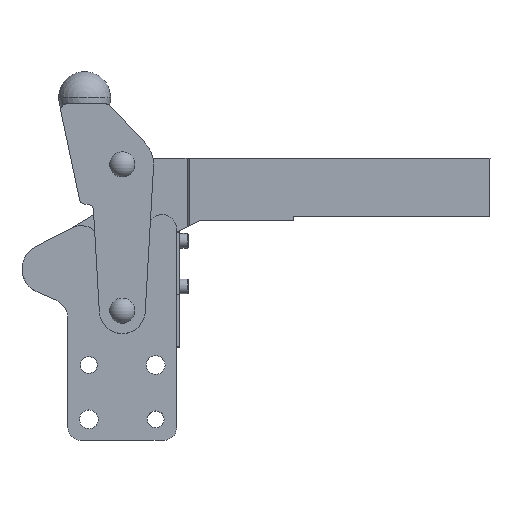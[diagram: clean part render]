
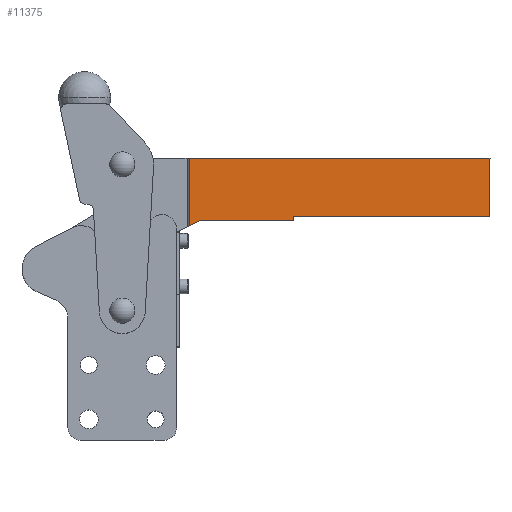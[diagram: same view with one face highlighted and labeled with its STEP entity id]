
A CAD part, top view. The second image highlights one B-rep face of the part: STEP entity #11375.
In plain terms, the highlighted planar face has unit normal (0, 0, 1).
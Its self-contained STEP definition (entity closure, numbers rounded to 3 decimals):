
#11029=CARTESIAN_POINT('',(536.792,181.28,-1.));
#11030=VERTEX_POINT('',#11029);
#11037=CARTESIAN_POINT('',(536.792,213.653,-1.));
#11038=VERTEX_POINT('',#11037);
#11039=CARTESIAN_POINT('',(536.792,213.653,-1.));
#11040=DIRECTION('',(0.,-1.,0.0));
#11041=VECTOR('',#11040,32.373);
#11042=LINE('',#11039,#11041);
#11043=EDGE_CURVE('',#11038,#11030,#11042,.T.);
#11241=CARTESIAN_POINT('',(680.792,213.653,-1.));
#11242=VERTEX_POINT('',#11241);
#11243=CARTESIAN_POINT('',(536.792,213.653,-1.));
#11244=DIRECTION('',(1.,0.,0.));
#11245=VECTOR('',#11244,144.);
#11246=LINE('',#11243,#11245);
#11247=EDGE_CURVE('',#11038,#11242,#11246,.T.);
#11328=CARTESIAN_POINT('',(468.04,159.94,-1.));
#11329=DIRECTION('',(0.0,0.0,1.0));
#11330=DIRECTION('',(1.,0.,0.0));
#11331=AXIS2_PLACEMENT_3D('',#11328,#11329,#11330);
#11332=PLANE('',#11331);
#11333=ORIENTED_EDGE('',*,*,#11043,.T.);
#11334=CARTESIAN_POINT('',(541.651,183.653,-1.));
#11335=VERTEX_POINT('',#11334);
#11336=CARTESIAN_POINT('',(541.651,183.653,-1.));
#11337=DIRECTION('',(-0.899,-0.439,0.0));
#11338=VECTOR('',#11337,5.408);
#11339=LINE('',#11336,#11338);
#11340=EDGE_CURVE('',#11335,#11030,#11339,.T.);
#11341=ORIENTED_EDGE('',*,*,#11340,.F.);
#11342=CARTESIAN_POINT('',(586.792,183.653,-1.));
#11343=VERTEX_POINT('',#11342);
#11344=CARTESIAN_POINT('',(586.792,183.653,-1.));
#11345=DIRECTION('',(-1.,0.,0.));
#11346=VECTOR('',#11345,45.141);
#11347=LINE('',#11344,#11346);
#11348=EDGE_CURVE('',#11343,#11335,#11347,.T.);
#11349=ORIENTED_EDGE('',*,*,#11348,.F.);
#11350=CARTESIAN_POINT('',(586.792,185.653,-1.));
#11351=VERTEX_POINT('',#11350);
#11352=CARTESIAN_POINT('',(586.792,185.653,-1.));
#11353=DIRECTION('',(0.,-1.,0.0));
#11354=VECTOR('',#11353,2.);
#11355=LINE('',#11352,#11354);
#11356=EDGE_CURVE('',#11351,#11343,#11355,.T.);
#11357=ORIENTED_EDGE('',*,*,#11356,.F.);
#11358=CARTESIAN_POINT('',(680.792,185.653,-1.));
#11359=VERTEX_POINT('',#11358);
#11360=CARTESIAN_POINT('',(680.792,185.653,-1.));
#11361=DIRECTION('',(-1.,0.,0.));
#11362=VECTOR('',#11361,94.);
#11363=LINE('',#11360,#11362);
#11364=EDGE_CURVE('',#11359,#11351,#11363,.T.);
#11365=ORIENTED_EDGE('',*,*,#11364,.F.);
#11366=CARTESIAN_POINT('',(680.792,213.653,-1.));
#11367=DIRECTION('',(0.,-1.,0.0));
#11368=VECTOR('',#11367,28.);
#11369=LINE('',#11366,#11368);
#11370=EDGE_CURVE('',#11242,#11359,#11369,.T.);
#11371=ORIENTED_EDGE('',*,*,#11370,.F.);
#11372=ORIENTED_EDGE('',*,*,#11247,.F.);
#11373=EDGE_LOOP('',(#11333,#11341,#11349,#11357,#11365,#11371,#11372));
#11374=FACE_OUTER_BOUND('',#11373,.T.);
#11375=ADVANCED_FACE('',(#11374),#11332,.T.);
